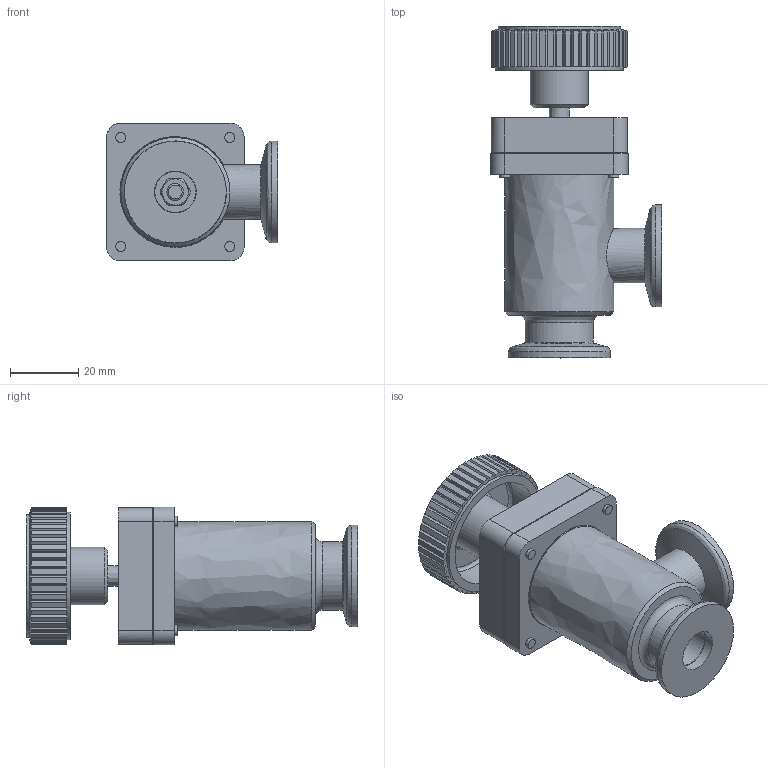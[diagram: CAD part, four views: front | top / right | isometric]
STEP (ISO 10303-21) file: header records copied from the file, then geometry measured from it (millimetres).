
FILE_DESCRIPTION((''),'2;1');
FILE_NAME('C:\TEMP\IDEAS\353703.stp','2007-11-06T10:40:54',('User'),( 'SDRC'),'I-DEAS Master Series 9','UNIX','Yes');
FILE_SCHEMA(('CONFIG_CONTROL_DESIGN'));
Length unit declared in the file: millimetre
Assembly tree (11 placements, depth 0):
Bounding box: 50.2 x 97.4 x 40.4 mm (x, y, z)
Volume: 49425.8 mm3; surface area: 33937.8 mm2
Topology: 10 solids, 10 shells, 419 faces, 1068 edges, 699 vertices
Faces by surface type: bspline 419
Entity records: 14312 total; most frequent: CARTESIAN_POINT 7284, ORIENTED_EDGE 1992, EDGE_CURVE 996, VERTEX_POINT 651, EDGE_LOOP 433, FACE_OUTER_BOUND 383, ADVANCED_FACE 383, QUASI_UNIFORM_CURVE 324
